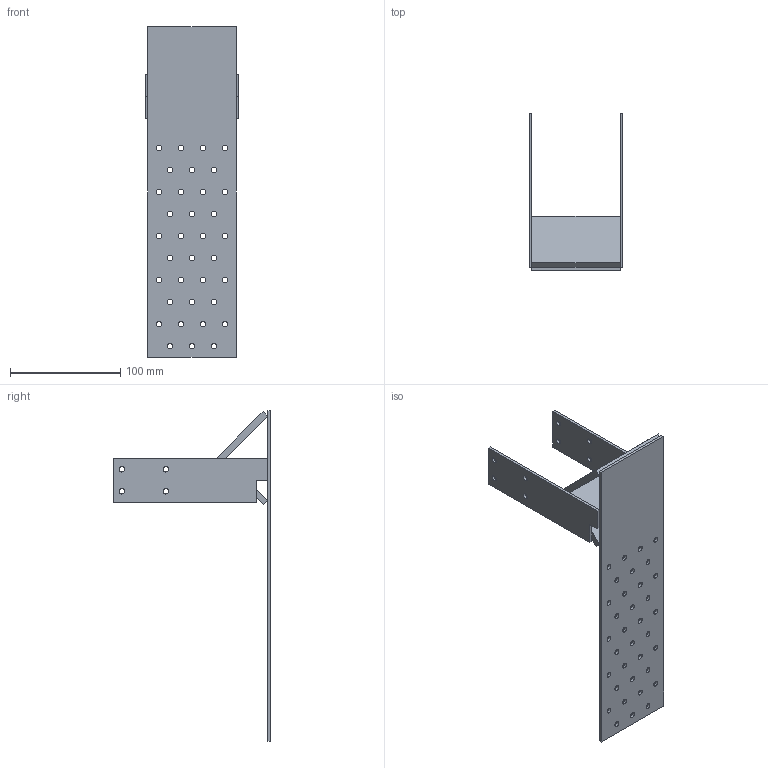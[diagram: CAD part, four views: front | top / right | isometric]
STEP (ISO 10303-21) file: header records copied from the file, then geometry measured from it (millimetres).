
FILE_DESCRIPTION (( 'STEP AP203' ), '1' );
FILE_NAME ('22101.STEP', '2021-05-21T05:09:46', ( '' ), ( '' ), 'SwSTEP 2.0', 'SolidWorks 2013', '' );
FILE_SCHEMA (( 'CONFIG_CONTROL_DESIGN' ));
Length unit declared in the file: millimetre
Products named in the file (4): STSF40X140; PLWESF80; PLFH80; 22101
Assembly tree (4 placements, depth 2):
  22101
    PLFH80
    PLWESF80
    STSF40X140  x2
Bounding box: 85 x 142.5 x 300 mm (x, y, z)
Volume: 139609.2 mm3; surface area: 93868 mm2
Topology: 4 solids, 4 shells, 116 faces, 324 edges, 216 vertices
Faces by surface type: cylinder 86, plane 30
Entity records: 3920 total; most frequent: DIRECTION 650, CARTESIAN_POINT 576, ORIENTED_EDGE 564, EDGE_CURVE 282, AXIS2_PLACEMENT_3D 262, VERTEX_POINT 188, EDGE_LOOP 178, CIRCLE 156
